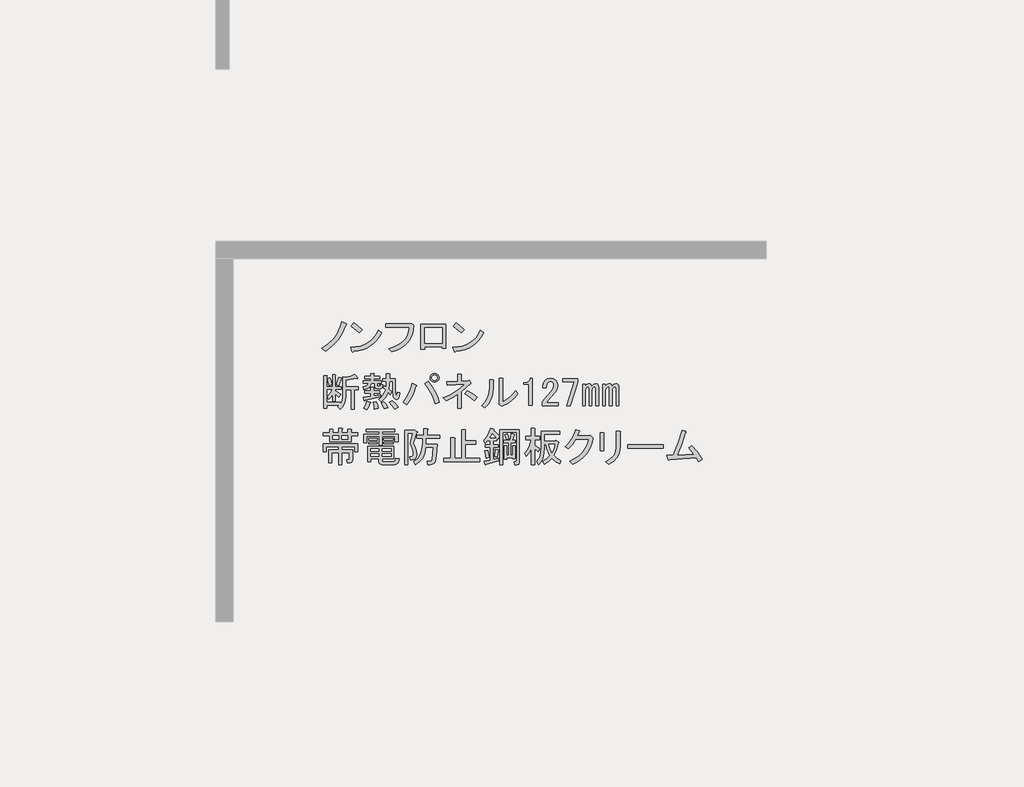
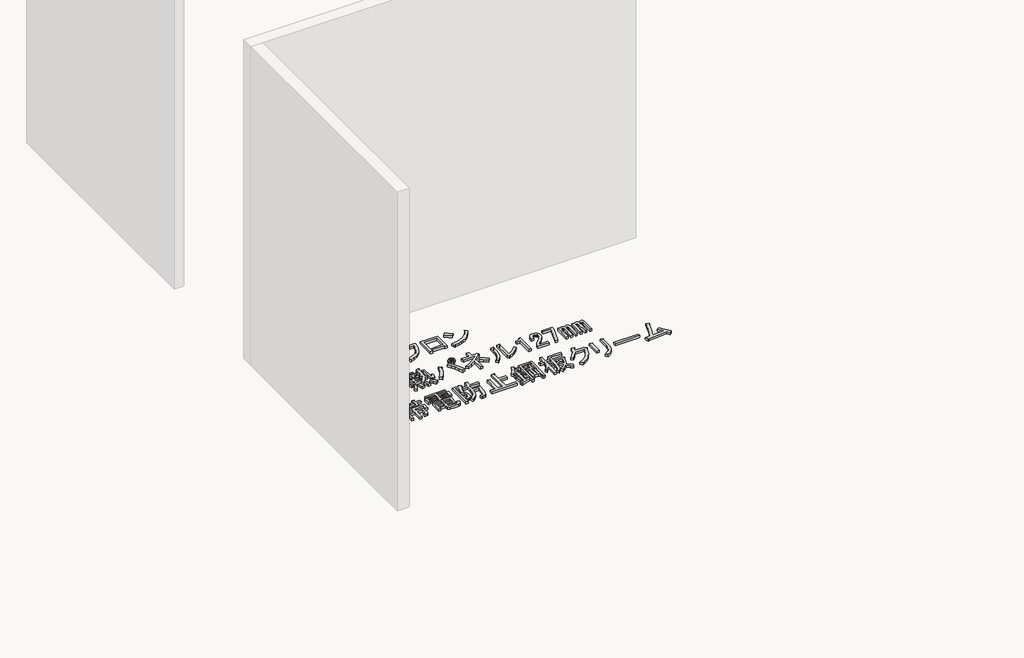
# One storey, part 18 of 117: 1 proxy.
"""IFC4 building model written with IfcOpenShell, lengths in millimetres."""

from ifc_helpers import new_model, si_unit, frame, origin, place, context, project, spatial, polyline, outline, extrude, element, save

model = new_model("IFC4")

# Units and contexts
model_context = context("Model", 3, world=origin())
ifc_project = project(units=[si_unit("LENGTHUNIT", "METRE", prefix="MILLI")], contexts=[model_context])

# Site, building, storey
site = spatial("IfcSite", under=ifc_project)
building = spatial("IfcBuilding", under=site)
storey = spatial("IfcBuildingStorey", under=building, Name="レベル 1", Elevation=500.0)

# Proxy
placement = place(None, origin())
element("IfcBuildingElementProxy", 1, Name="200㎜\u3000MS Pゴシック", ObjectType="200㎜\u3000MS Pゴシック", at=placement, inside=storey, context=model_context, shape_type="SweptSolid", body=[
    extrude(outline(polyline([(-15056.3293015, -8607.0496882), (-15081.9047498, -8666.8215225), (-15110.353844, -8712.7998566), (-15152.0217093, -8758.2034615), (-15201.1610538, -8795.560858), (-15228.7480543, -8773.7211493), (-15181.0455327, -8743.2605029), (-15141.3892195, -8704.7536481), (-15124.0036619, -8680.8305462), (-15108.6296565, -8652.7406577), (-15095.2672031, -8620.4839827), (-15083.9163019, -8584.0605212), (-15052.8809264, -8597.8540214), (-15049.7199159, -8602.4518548), (-15056.3293015, -8607.0496882)])), frame((0.0, 0.0, 500.0), z_axis=(0.0, 0.0, 1.0), x_axis=(1.0, 0.0, 0.0)), (0.0, 0.0, 1.0), 25.0),
    extrude(outline(polyline([(-14956.6022948, -8662.2236891), (-15015.2246708, -8615.0958967), (-14995.6838788, -8590.9572713), (-14968.3842429, -8610.7854279), (-14934.7625862, -8640.3839804), (-14956.6022948, -8662.2236891)])), frame((0.0, 0.0, 500.0), z_axis=(0.0, 0.0, 1.0), x_axis=(1.0, 0.0, 0.0)), (0.0, 0.0, 1.0), 25.0),
    extrude(outline(polyline([(-14794.5286672, -8662.2236891), (-14811.052131, -8691.965924), (-14830.1618761, -8717.9724192), (-14851.8579025, -8740.2431748), (-14876.1402102, -8758.7781907), (-14903.0087992, -8773.577467), (-14932.4636694, -8784.6410036), (-14964.504821, -8791.9688006), (-14999.1322539, -8795.560858), (-15004.8795456, -8803.6070664), (-15010.6268374, -8797.8597747), (-15019.8225042, -8767.9738575), (-14983.9917321, -8765.2977748), (-14951.2142088, -8758.9937141), (-14921.4899342, -8749.0616756), (-14894.8189084, -8735.5016591), (-14871.2011313, -8718.3136646), (-14850.636603, -8697.4976923), (-14833.1253234, -8673.053742), (-14818.6672926, -8644.9818138), (-14794.5286672, -8662.2236891)])), frame((0.0, 0.0, 500.0), z_axis=(0.0, 0.0, 1.0), x_axis=(1.0, 0.0, 0.0)), (0.0, 0.0, 1.0), 25.0),
    extrude(outline(polyline([(-14743.7685864, -8777.1695243), (-14709.985287, -8767.4889298), (-14680.4765359, -8755.1142922), (-14655.242333, -8740.0456116), (-14634.2826783, -8722.282888), (-14617.597572, -8701.8261214), (-14605.1870138, -8678.6753118), (-14597.0510039, -8652.8304591), (-14593.1895423, -8624.2915635), (-14765.6082951, -8624.2915635), (-14765.6082951, -8599.0034798), (-14590.8906256, -8599.0034798), (-14574.7982086, -8595.5551047), (-14562.1541668, -8607.0496882), (-14565.674383, -8643.5449909), (-14573.9361149, -8676.5919185), (-14586.9393625, -8706.1904711), (-14604.6841258, -8732.3406486), (-14627.1704048, -8755.042451), (-14654.3981995, -8774.2958784), (-14686.3675099, -8790.1009308), (-14723.078336, -8802.4576081), (-14743.7685864, -8777.1695243)])), frame((0.0, 0.0, 500.0), z_axis=(0.0, 0.0, 1.0), x_axis=(1.0, 0.0, 0.0)), (0.0, 0.0, 1.0), 25.0),
    extrude(outline(polyline([(-14329.044013, -8776.020066), (-14355.4815551, -8776.020066), (-14355.4815551, -8763.3760241), (-14483.0714321, -8763.3760241), (-14483.0714321, -8781.7673577), (-14509.5089742, -8781.7673577), (-14509.5089742, -8602.4518548), (-14329.044013, -8602.4518548), (-14329.044013, -8776.020066)]), holes=[polyline([(-14483.0714321, -8627.7399386), (-14483.0714321, -8738.0879404), (-14355.4815551, -8738.0879404), (-14355.4815551, -8627.7399386), (-14483.0714321, -8627.7399386)])]), frame((0.0, 0.0, 500.0), z_axis=(0.0, 0.0, 1.0), x_axis=(1.0, 0.0, 0.0)), (0.0, 0.0, 1.0), 25.0),
    extrude(outline(polyline([(-14052.9900951, -8662.2236891), (-14069.5135589, -8691.965924), (-14088.623304, -8717.9724192), (-14110.3193304, -8740.2431748), (-14134.6016381, -8758.7781907), (-14161.4702271, -8773.577467), (-14190.9250974, -8784.6410036), (-14222.9662489, -8791.9688006), (-14257.5936818, -8795.560858), (-14263.3409736, -8803.6070664), (-14269.0882653, -8797.8597747), (-14278.2839321, -8767.9738575), (-14242.4531601, -8765.2977748), (-14209.6756367, -8758.9937141), (-14179.9513622, -8749.0616756), (-14153.2803363, -8735.5016591), (-14129.6625593, -8718.3136646), (-14109.0980309, -8697.4976923), (-14091.5867514, -8673.053742), (-14077.1287205, -8644.9818138), (-14052.9900951, -8662.2236891)])), frame((0.0, 0.0, 500.0), z_axis=(0.0, 0.0, 1.0), x_axis=(1.0, 0.0, 0.0)), (0.0, 0.0, 1.0), 25.0),
    extrude(outline(polyline([(-14215.0637228, -8662.2236891), (-14273.6860987, -8615.0958967), (-14254.1453067, -8590.9572713), (-14226.8456709, -8610.7854279), (-14193.2240141, -8640.3839804), (-14215.0637228, -8662.2236891)])), frame((0.0, 0.0, 500.0), z_axis=(0.0, 0.0, 1.0), x_axis=(1.0, 0.0, 0.0)), (0.0, 0.0, 1.0), 25.0),
    extrude(outline(polyline([(-15122.9978859, -9039.2345221), (-15105.7560106, -8986.3594379), (-15085.0657603, -8992.1067296), (-15083.3415727, -8995.2677401), (-15087.364677, -8997.8540214), (-15104.6065523, -9046.1312722), (-15122.9978859, -9039.2345221)])), frame((0.0, 0.0, 500.0), z_axis=(0.0, 0.0, 1.0), x_axis=(1.0, 0.0, 0.0)), (0.0, 0.0, 1.0), 25.0),
    extrude(outline(polyline([(-14968.9704667, -8990.9572713), (-14970.6946542, -8995.5551047), (-14978.1661335, -8993.256188), (-15055.1798431, -9005.9002299), (-15055.1798431, -9055.326939), (-14963.2231749, -9055.326939), (-14963.2231749, -9077.1666477), (-14994.2585505, -9077.1666477), (-14994.2585505, -9217.4005666), (-15017.2477175, -9217.4005666), (-15017.2477175, -9077.1666477), (-15055.1798431, -9077.1666477), (-15055.1798431, -9126.5933568), (-15057.7661244, -9154.3958807), (-15065.5249683, -9179.1810764), (-15078.4563747, -9200.948944), (-15096.5603438, -9219.6994833), (-15113.8022191, -9200.1586914), (-15103.4570939, -9190.9630245), (-15193.1148454, -9190.9630245), (-15193.1148454, -9212.8027332), (-15216.1040124, -9212.8027332), (-15216.1040124, -8973.715396), (-15194.2643037, -8973.715396), (-15189.3791057, -8976.0143127), (-15193.1148454, -8980.6121461), (-15193.1148454, -9056.4763974), (-15150.5848863, -9056.4763974), (-15150.5848863, -8969.1175626), (-15132.1935527, -8969.1175626), (-15127.3083547, -8971.4164793), (-15131.0440943, -8976.0143127), (-15131.0440943, -9056.4763974), (-15087.364677, -9056.4763974), (-15087.364677, -9074.867731), (-15131.0440943, -9074.867731), (-15131.0440943, -9084.0633978), (-15090.813052, -9110.5009399), (-15104.6065523, -9132.3406486), (-15131.0440943, -9105.9031065), (-15131.0440943, -9158.7781907), (-15150.5848863, -9158.7781907), (-15150.5848863, -9110.5009399), (-15163.8036574, -9130.3290965), (-15178.1718868, -9146.1341488), (-15190.8159287, -9127.7428152), (-15168.97622, -9103.6041898), (-15151.7343447, -9074.867731), (-15193.1148454, -9074.867731), (-15193.1148454, -9169.1233159), (-15095.4108854, -9169.1233159), (-15095.4108854, -9182.9168161), (-15082.479479, -9158.7781907), (-15078.1690102, -9125.4438985), (-15078.1690102, -8980.6121461), (-15056.3293015, -8986.3594379), (-15020.1213634, -8978.8879586), (-14989.660717, -8965.6691875), (-14968.9704667, -8990.9572713)])), frame((0.0, 0.0, 500.0), z_axis=(0.0, 0.0, 1.0), x_axis=(1.0, 0.0, 0.0)), (0.0, 0.0, 1.0), 25.0),
    extrude(outline(polyline([(-15177.0224284, -9047.2807305), (-15189.6664703, -8996.7045631), (-15170.1256783, -8989.8078129), (-15162.3668344, -9013.9464383), (-15157.4816364, -9040.3839804), (-15177.0224284, -9047.2807305)])), frame((0.0, 0.0, 500.0), z_axis=(0.0, 0.0, 1.0), x_axis=(1.0, 0.0, 0.0)), (0.0, 0.0, 1.0), 25.0),
    extrude(outline(polyline([(-14878.1632569, -9167.9738575), (-14874.7148818, -9172.8590555), (-14880.4621736, -9176.020066), (-14890.2325696, -9201.5955143), (-14901.1524239, -9220.8489417), (-14924.141591, -9209.3543582), (-14911.4975491, -9185.790462), (-14901.1524239, -9158.7781907), (-14878.1632569, -9167.9738575)])), frame((0.0, 0.0, 500.0), z_axis=(0.0, 0.0, 1.0), x_axis=(1.0, 0.0, 0.0)), (0.0, 0.0, 1.0), 25.0),
    extrude(outline(polyline([(-14833.3343812, -9163.3760241), (-14823.2766206, -9190.67566), (-14818.3914226, -9212.8027332), (-14847.1278814, -9218.550025), (-14849.7141627, -9196.9976809), (-14857.4730066, -9166.8243992), (-14833.3343812, -9163.3760241)])), frame((0.0, 0.0, 500.0), z_axis=(0.0, 0.0, 1.0), x_axis=(1.0, 0.0, 0.0)), (0.0, 0.0, 1.0), 25.0),
    extrude(outline(polyline([(-14718.388546, -9157.6287323), (-14693.6751914, -9178.8937119), (-14674.7091286, -9203.6070664), (-14701.1466707, -9218.550025), (-14720.4000981, -9188.9514724), (-14739.0787963, -9169.1233159), (-14718.388546, -9157.6287323)])), frame((0.0, 0.0, 500.0), z_axis=(0.0, 0.0, 1.0), x_axis=(1.0, 0.0, 0.0)), (0.0, 0.0, 1.0), 25.0),
    extrude(outline(polyline([(-14777.0109219, -9216.2511083), (-14785.344495, -9191.5377537), (-14798.8506306, -9170.2727742), (-14778.1603803, -9162.2265657), (-14761.2058696, -9183.7789098), (-14749.4239215, -9207.0554415), (-14777.0109219, -9216.2511083)])), frame((0.0, 0.0, 500.0), z_axis=(0.0, 0.0, 1.0), x_axis=(1.0, 0.0, 0.0)), (0.0, 0.0, 1.0), 25.0),
    extrude(outline(polyline([(-14916.0953825, -9153.0308989), (-14918.1069346, -9157.9160969), (-14921.8426743, -9156.479274), (-14927.589966, -9132.3406486), (-14872.4159651, -9124.2944401), (-14872.4159651, -9101.3052731), (-14916.0953825, -9101.3052731), (-14916.0953825, -9082.9139395), (-14872.4159651, -9082.9139395), (-14872.4159651, -9059.9247724), (-14854.0246315, -9059.9247724), (-14849.1394335, -9062.2236891), (-14852.8751732, -9066.8215225), (-14852.8751732, -9082.9139395), (-14808.0462974, -9082.9139395), (-14808.0462974, -9101.3052731), (-14852.8751732, -9101.3052731), (-14852.8751732, -9120.8460651), (-14802.2990057, -9111.6503983), (-14802.2990057, -9127.7428152), (-14916.0953825, -9153.0308989)])), frame((0.0, 0.0, 500.0), z_axis=(0.0, 0.0, 1.0), x_axis=(1.0, 0.0, 0.0)), (0.0, 0.0, 1.0), 25.0),
    extrude(outline(polyline([(-14845.978423, -9031.1883136), (-14871.2665068, -9031.1883136), (-14875.8643402, -9048.6457123), (-14886.2094654, -9061.9363245), (-14902.3018823, -9071.0601502), (-14924.141591, -9076.0171893), (-14928.7394244, -9056.4763974), (-14903.4513406, -9047.8554597), (-14895.9798614, -9040.5276627), (-14891.9567571, -9031.1883136), (-14927.589966, -9031.1883136), (-14927.589966, -9012.79698), (-14873.5654235, -9012.79698), (-14873.5654235, -8995.5551047), (-14917.2448409, -8995.5551047), (-14917.2448409, -8977.1637711), (-14873.5654235, -8977.1637711), (-14873.5654235, -8958.7724374), (-14851.7257148, -8958.7724374), (-14846.8405168, -8961.0713541), (-14850.5762564, -8965.6691875), (-14850.5762564, -8977.1637711), (-14808.0462974, -8977.1637711), (-14808.0462974, -8995.5551047), (-14850.5762564, -8995.5551047), (-14850.5762564, -9012.79698), (-14797.7011723, -9012.79698), (-14797.7011723, -9031.1883136), (-14826.4376311, -9031.1883136), (-14826.4376311, -9043.8323555), (-14825.0008081, -9049.0049181), (-14820.6903393, -9050.7291056), (-14810.3452141, -9050.7291056), (-14806.6094745, -9047.5680951), (-14806.8968391, -9038.0850637), (-14787.3560471, -9040.3839804), (-14790.229693, -9061.9363245), (-14795.5459378, -9067.3244106), (-14803.448464, -9069.1204392), (-14827.5870894, -9069.1204392), (-14841.3805896, -9064.2352412), (-14845.978423, -9049.5796472), (-14845.978423, -9031.1883136)])), frame((0.0, 0.0, 500.0), z_axis=(0.0, 0.0, 1.0), x_axis=(1.0, 0.0, 0.0)), (0.0, 0.0, 1.0), 25.0),
    extrude(outline(polyline([(-14714.9401709, -9013.9464383), (-14736.7798796, -9013.9464383), (-14741.377713, -9071.4193559), (-14721.836921, -9089.8106896), (-14732.1820462, -9111.6503983), (-14748.2744631, -9095.5579813), (-14767.5278905, -9133.2027424), (-14797.7011723, -9165.6749408), (-14814.9430475, -9144.9846905), (-14799.8564067, -9133.0590601), (-14786.7813179, -9117.9724192), (-14775.7177813, -9099.7247679), (-14766.6657967, -9078.316106), (-14783.907672, -9063.3731475), (-14775.8614636, -9046.1312722), (-14762.0679633, -9056.4763974), (-14759.7690466, -9013.9464383), (-14787.3560471, -9013.9464383), (-14787.3560471, -8995.5551047), (-14759.7690466, -8995.5551047), (-14759.7690466, -8961.0713541), (-14737.9293379, -8961.0713541), (-14733.04414, -8963.3702708), (-14736.7798796, -8967.9681043), (-14736.7798796, -8995.5551047), (-14695.3993789, -8995.5551047), (-14695.3993789, -9092.1096063), (-14691.9510039, -9116.2482317), (-14688.7181523, -9118.2597838), (-14685.9163475, -9115.0987733), (-14681.6058787, -9093.2590646), (-14662.0650867, -9100.1558147), (-14666.591079, -9126.9525626), (-14674.421764, -9142.9731384), (-14685.5571418, -9148.2175421), (-14699.9972123, -9142.6857738), (-14706.5347567, -9135.3579768), (-14711.2044313, -9123.719711), (-14714.9401709, -9087.5117729), (-14714.9401709, -9013.9464383)])), frame((0.0, 0.0, 500.0), z_axis=(0.0, 0.0, 1.0), x_axis=(1.0, 0.0, 0.0)), (0.0, 0.0, 1.0), 25.0),
    extrude(outline(polyline([(-14456.3120417, -9016.245355), (-14429.6589762, -9052.9561812), (-14407.1726971, -9090.6727833), (-14388.8532047, -9129.3951616), (-14374.7004987, -9169.1233159), (-14405.7358742, -9179.468441), (-14421.1817208, -9136.3637528), (-14438.7828018, -9097.856898), (-14458.5391173, -9063.9478766), (-14480.4506671, -9034.6366887), (-14456.3120417, -9016.245355)])), frame((0.0, 0.0, 500.0), z_axis=(0.0, 0.0, 1.0), x_axis=(1.0, 0.0, 0.0)), (0.0, 0.0, 1.0), 25.0),
    extrude(outline(polyline([(-14543.6708765, -9042.6828971), (-14539.6477722, -9048.1428243), (-14545.9697932, -9053.0280223), (-14557.8954236, -9088.4457078), (-14572.9820644, -9122.282888), (-14591.2297158, -9154.539563), (-14612.6383776, -9185.2157328), (-14639.0759197, -9167.9738575), (-14615.8712292, -9136.5074351), (-14596.8333252, -9103.0294606), (-14581.9622078, -9067.539934), (-14571.2578769, -9030.0388553), (-14543.6708765, -9042.6828971)])), frame((0.0, 0.0, 500.0), z_axis=(0.0, 0.0, 1.0), x_axis=(1.0, 0.0, 0.0)), (0.0, 0.0, 1.0), 25.0),
    extrude(outline(polyline([(-14410.3337076, -9021.9926468), (-14422.9777495, -9019.6937301), (-14433.3228747, -9012.79698), (-14440.2196248, -9002.4518548), (-14442.5185415, -8989.8078129), (-14440.2196248, -8977.1637711), (-14433.3228747, -8966.8186459), (-14422.9777495, -8959.9218958), (-14410.3337076, -8957.6229791), (-14397.6896657, -8959.9218958), (-14387.3445406, -8966.8186459), (-14380.4477905, -8977.1637711), (-14378.1488738, -8989.8078129), (-14380.4477905, -9002.4518548), (-14387.3445406, -9012.79698), (-14397.6896657, -9019.6937301), (-14410.3337076, -9021.9926468)]), holes=[polyline([(-14410.3337076, -9010.4980633), (-14402.0001346, -9009.0612403), (-14395.390749, -9004.7507715), (-14391.0802802, -8998.141386), (-14389.6434573, -8989.8078129), (-14391.0802802, -8981.4742399), (-14395.390749, -8974.8648544), (-14402.0001346, -8970.5543855), (-14410.3337076, -8969.1175626), (-14418.6672807, -8970.5543855), (-14425.2766662, -8974.8648544), (-14429.587135, -8981.4742399), (-14431.023958, -8989.8078129), (-14429.587135, -8998.141386), (-14425.2766662, -9004.7507715), (-14418.6672807, -9009.0612403), (-14410.3337076, -9010.4980633)])]), frame((0.0, 0.0, 500.0), z_axis=(0.0, 0.0, 1.0), x_axis=(1.0, 0.0, 0.0)), (0.0, 0.0, 1.0), 25.0),
    extrude(outline(polyline([(-14120.6702029, -9155.3298156), (-14157.7402348, -9126.0186277), (-14190.7871624, -9104.7536481), (-14173.5452871, -9082.9139395), (-14134.7510677, -9106.1904711), (-14101.1294109, -9132.3406486), (-14120.6702029, -9155.3298156)])), frame((0.0, 0.0, 500.0), z_axis=(0.0, 0.0, 1.0), x_axis=(1.0, 0.0, 0.0)), (0.0, 0.0, 1.0), 25.0),
    extrude(outline(polyline([(-14166.648537, -9011.6475216), (-14159.7517869, -9009.3486049), (-14147.107745, -9026.5904802), (-14145.9582866, -9032.6251366), (-14151.7055784, -9034.6366887), (-14214.9257878, -9090.9601479), (-14214.9257878, -9211.6532749), (-14241.3633299, -9211.6532749), (-14241.3633299, -9109.3514816), (-14281.5943722, -9133.4901069), (-14326.4232479, -9155.3298156), (-14345.9640399, -9134.6395653), (-14300.4167527, -9115.1706145), (-14259.1799343, -9092.3969709), (-14222.2535848, -9066.3186345), (-14189.637704, -9036.9356054), (-14319.5264978, -9042.6828971), (-14322.9748729, -9017.3948134), (-14241.3633299, -9015.0958967), (-14241.3633299, -8963.3702708), (-14218.3741628, -8963.3702708), (-14212.3395065, -8966.8186459), (-14214.9257878, -8972.5659377), (-14214.9257878, -9013.9464383), (-14166.648537, -9011.6475216)])), frame((0.0, 0.0, 500.0), z_axis=(0.0, 0.0, 1.0), x_axis=(1.0, 0.0, 0.0)), (0.0, 0.0, 1.0), 25.0),
    extrude(outline(polyline([(-14067.703162, -9193.2619413), (-14042.5587606, -9164.0225944), (-14024.5984738, -9131.4785548), (-14013.8223018, -9095.6298225), (-14010.2302444, -9056.4763974), (-14010.2302444, -9004.7507715), (-13986.091619, -9004.7507715), (-13980.3443273, -9008.1991466), (-13983.7927023, -9013.9464383), (-13983.7927023, -9055.326939), (-13987.6002831, -9101.0897496), (-13999.0230255, -9141.82368), (-14018.0609295, -9177.5287301), (-14044.713995, -9208.2048998), (-14067.703162, -9193.2619413)])), frame((0.0, 0.0, 500.0), z_axis=(0.0, 0.0, 1.0), x_axis=(1.0, 0.0, 0.0)), (0.0, 0.0, 1.0), 25.0),
    extrude(outline(polyline([(-13913.6757429, -9162.2265657), (-13888.8905471, -9150.0135708), (-13865.1111275, -9132.9153778), (-13842.3374839, -9110.9319868), (-13820.5696163, -9084.0633978), (-13804.4771994, -9105.9031065), (-13827.753731, -9133.7056304), (-13853.9039086, -9157.3413678), (-13882.9277319, -9176.8103186), (-13914.8252012, -9192.1124829), (-13924.020868, -9196.7103163), (-13942.4122017, -9182.9168161), (-13940.113285, -9177.1695243), (-13940.113285, -8992.1067296), (-13915.9746596, -8992.1067296), (-13910.2273678, -8995.5551047), (-13913.6757429, -9001.3023965), (-13913.6757429, -9162.2265657)])), frame((0.0, 0.0, 500.0), z_axis=(0.0, 0.0, 1.0), x_axis=(1.0, 0.0, 0.0)), (0.0, 0.0, 1.0), 25.0),
    extrude(outline(polyline([(-13725.1645731, -9015.0958967), (-13717.1183647, -9004.1760423), (-13713.6699896, -8992.1067296), (-13699.8764894, -8992.1067296), (-13699.8764894, -9190.9630245), (-13726.3140315, -9190.9630245), (-13726.3140315, -9038.0850637), (-13760.797782, -9038.0850637), (-13760.797782, -9024.2915635), (-13750.4526569, -9024.2915635), (-13736.0844275, -9021.9926468), (-13725.1645731, -9015.0958967)])), frame((0.0, 0.0, 500.0), z_axis=(0.0, 0.0, 1.0), x_axis=(1.0, 0.0, 0.0)), (0.0, 0.0, 1.0), 25.0),
    extrude(outline(polyline([(-13625.1616965, -9062.2236891), (-13620.5638631, -9030.900949), (-13606.7703629, -9008.1991466), (-13590.3905814, -8996.9919276), (-13571.137154, -8993.256188), (-13548.4353515, -8996.9919276), (-13530.9061116, -9008.1991466), (-13519.6988927, -9024.8662927), (-13515.9631531, -9044.9818138), (-13520.2736219, -9070.8446268), (-13533.2050283, -9093.2590646), (-13566.5393205, -9131.1911902), (-13584.9306542, -9151.8814406), (-13598.7241544, -9170.2727742), (-13512.514778, -9170.2727742), (-13512.514778, -9192.1124829), (-13629.7595299, -9192.1124829), (-13629.7595299, -9172.5716909), (-13623.7248736, -9158.7781907), (-13610.2187379, -9140.3868571), (-13563.0909455, -9088.6612312), (-13548.4353515, -9067.3962517), (-13543.5501535, -9044.9818138), (-13545.8490702, -9032.337772), (-13552.7458203, -9021.9926468), (-13560.5046642, -9016.8200842), (-13569.9876956, -9015.0958967), (-13578.6086332, -9016.8200842), (-13586.0801125, -9021.9926468), (-13595.5631439, -9038.3724283), (-13598.7241544, -9062.2236891), (-13625.1616965, -9062.2236891)])), frame((0.0, 0.0, 500.0), z_axis=(0.0, 0.0, 1.0), x_axis=(1.0, 0.0, 0.0)), (0.0, 0.0, 1.0), 25.0),
    extrude(outline(polyline([(-13478.0310274, -8995.5551047), (-13368.832484, -8995.5551047), (-13368.832484, -9020.8431884), (-13424.0064849, -9192.1124829), (-13449.2945686, -9192.1124829), (-13394.1205677, -9017.3948134), (-13478.0310274, -9017.3948134), (-13478.0310274, -8995.5551047)])), frame((0.0, 0.0, 500.0), z_axis=(0.0, 0.0, 1.0), x_axis=(1.0, 0.0, 0.0)), (0.0, 0.0, 1.0), 25.0),
    extrude(outline(polyline([(-13315.9573998, -9193.2619413), (-13335.4981918, -9193.2619413), (-13335.4981918, -9035.786147), (-13315.9573998, -9035.786147), (-13315.9573998, -9053.0280223), (-13303.8880871, -9037.5103346), (-13290.6693161, -9032.337772), (-13281.4736492, -9033.7745949), (-13274.5768991, -9038.0850637), (-13267.680149, -9051.878564), (-13254.7487426, -9037.22297), (-13241.2426069, -9032.337772), (-13232.9090339, -9033.7745949), (-13226.2996483, -9038.0850637), (-13221.1270858, -9046.7060014), (-13219.4028982, -9058.7753141), (-13219.4028982, -9193.2619413), (-13238.9436902, -9193.2619413), (-13238.9436902, -9069.1204392), (-13241.5299715, -9059.6374078), (-13249.2888154, -9056.4763974), (-13259.6339406, -9061.0742308), (-13265.6685969, -9069.6951684), (-13267.680149, -9079.4655644), (-13267.680149, -9193.2619413), (-13287.220941, -9193.2619413), (-13287.220941, -9069.1204392), (-13289.8072223, -9059.6374078), (-13297.5660662, -9056.4763974), (-13307.9111913, -9061.0742308), (-13313.9458477, -9069.6951684), (-13315.9573998, -9079.4655644), (-13315.9573998, -9193.2619413)])), frame((0.0, 0.0, 500.0), z_axis=(0.0, 0.0, 1.0), x_axis=(1.0, 0.0, 0.0)), (0.0, 0.0, 1.0), 25.0),
    extrude(outline(polyline([(-13094.1119379, -9032.337772), (-13085.7783648, -9033.7745949), (-13079.1689793, -9038.0850637), (-13073.9964167, -9046.7060014), (-13072.2722292, -9058.7753141), (-13072.2722292, -9193.2619413), (-13091.8130212, -9193.2619413), (-13091.8130212, -9069.1204392), (-13094.3993024, -9059.6374078), (-13102.1581463, -9056.4763974), (-13112.5032715, -9061.0742308), (-13118.5379278, -9069.6951684), (-13120.54948, -9079.4655644), (-13120.54948, -9193.2619413), (-13140.0902719, -9193.2619413), (-13140.0902719, -9069.1204392), (-13142.6765532, -9059.6374078), (-13150.4353971, -9056.4763974), (-13160.7805223, -9061.0742308), (-13166.8151786, -9069.6951684), (-13168.8267307, -9079.4655644), (-13168.8267307, -9193.2619413), (-13188.3675227, -9193.2619413), (-13188.3675227, -9035.786147), (-13168.8267307, -9035.786147), (-13168.8267307, -9053.0280223), (-13156.757418, -9037.5103346), (-13143.538647, -9032.337772), (-13134.3429802, -9033.7745949), (-13127.4462301, -9038.0850637), (-13120.54948, -9051.878564), (-13107.6180735, -9037.22297), (-13094.1119379, -9032.337772)])), frame((0.0, 0.0, 500.0), z_axis=(0.0, 0.0, 1.0), x_axis=(1.0, 0.0, 0.0)), (0.0, 0.0, 1.0), 25.0),
    extrude(outline(polyline([(-14967.8210084, -9526.5933568), (-14990.8101754, -9526.5933568), (-14990.8101754, -9489.8106896), (-15082.7668436, -9489.8106896), (-15082.7668436, -9513.949315), (-15005.753134, -9513.949315), (-15005.753134, -9588.6641078), (-15010.3509674, -9602.4576081), (-15024.1444676, -9607.0554415), (-15045.9841763, -9607.0554415), (-15049.4325514, -9585.2157328), (-15033.3401344, -9585.2157328), (-15029.8917594, -9584.0662744), (-15028.742301, -9580.6178994), (-15028.742301, -9535.7890237), (-15082.7668436, -9535.7890237), (-15082.7668436, -9623.1478584), (-15105.7560106, -9623.1478584), (-15105.7560106, -9535.7890237), (-15157.4816364, -9535.7890237), (-15157.4816364, -9608.2048998), (-15180.4708035, -9608.2048998), (-15180.4708035, -9513.949315), (-15105.7560106, -9513.949315), (-15105.7560106, -9489.8106896), (-15197.7126788, -9489.8106896), (-15197.7126788, -9526.5933568), (-15220.7018458, -9526.5933568), (-15220.7018458, -9467.9709809), (-14967.8210084, -9467.9709809), (-14967.8210084, -9526.5933568)])), frame((0.0, 0.0, 500.0), z_axis=(0.0, 0.0, 1.0), x_axis=(1.0, 0.0, 0.0)), (0.0, 0.0, 1.0), 25.0),
    extrude(outline(polyline([(-15172.424595, -9453.0280223), (-15172.424595, -9432.337772), (-15172.424595, -9411.6475216), (-15218.4029291, -9411.6475216), (-15218.4029291, -9389.8078129), (-15172.424595, -9389.8078129), (-15172.424595, -9364.5197292), (-15150.5848863, -9364.5197292), (-15145.6996883, -9366.8186459), (-15149.435428, -9371.4164793), (-15149.435428, -9389.8078129), (-15105.7560106, -9389.8078129), (-15105.7560106, -9357.6229791), (-15083.9163019, -9357.6229791), (-15079.0311039, -9359.9218958), (-15082.7668436, -9364.5197292), (-15082.7668436, -9389.8078129), (-15040.2368845, -9389.8078129), (-15040.2368845, -9364.5197292), (-15018.3971758, -9364.5197292), (-15013.5119779, -9366.8186459), (-15017.2477175, -9371.4164793), (-15017.2477175, -9389.8078129), (-14970.1199251, -9389.8078129), (-14970.1199251, -9411.6475216), (-15017.2477175, -9411.6475216), (-15017.2477175, -9453.0280223), (-15172.424595, -9453.0280223)]), holes=[polyline([(-15105.7560106, -9411.6475216), (-15149.435428, -9411.6475216), (-15149.435428, -9434.6366887), (-15105.7560106, -9434.6366887), (-15105.7560106, -9411.6475216)]), polyline([(-15040.2368845, -9411.6475216), (-15082.7668436, -9411.6475216), (-15082.7668436, -9434.6366887), (-15040.2368845, -9434.6366887), (-15040.2368845, -9411.6475216)])]), frame((0.0, 0.0, 500.0), z_axis=(0.0, 0.0, 1.0), x_axis=(1.0, 0.0, 0.0)), (0.0, 0.0, 1.0), 25.0),
    extrude(outline(polyline([(-14698.847754, -9381.7616045), (-14790.8044221, -9381.7616045), (-14790.8044221, -9400.1529381), (-14675.8585869, -9400.1529381), (-14675.8585869, -9455.326939), (-14698.847754, -9455.326939), (-14698.847754, -9413.9464383), (-14790.8044221, -9413.9464383), (-14790.8044221, -9479.4655644), (-14813.7935892, -9479.4655644), (-14813.7935892, -9413.9464383), (-14902.3018823, -9413.9464383), (-14902.3018823, -9459.9247724), (-14925.2910493, -9459.9247724), (-14925.2910493, -9400.1529381), (-14813.7935892, -9400.1529381), (-14813.7935892, -9381.7616045), (-14905.7502573, -9381.7616045), (-14905.7502573, -9363.3702708), (-14698.847754, -9363.3702708), (-14698.847754, -9381.7616045)])), frame((0.0, 0.0, 500.0), z_axis=(0.0, 0.0, 1.0), x_axis=(1.0, 0.0, 0.0)), (0.0, 0.0, 1.0), 25.0),
    extrude(outline(polyline([(-14666.6629201, -9578.3189827), (-14669.4647249, -9596.9258397), (-14676.7206807, -9610.2164519), (-14688.4307877, -9618.1908193), (-14704.5950457, -9620.8489417), (-14794.2527972, -9620.8489417), (-14809.770485, -9615.9637437), (-14813.6499069, -9609.8572462), (-14814.9430475, -9601.3081497), (-14814.9430475, -9579.468441), (-14874.7148818, -9579.468441), (-14874.7148818, -9599.009233), (-14894.2556738, -9599.009233), (-14894.2556738, -9486.3623145), (-14706.8939624, -9486.3623145), (-14706.8939624, -9579.468441), (-14791.9538805, -9579.468441), (-14791.9538805, -9589.8135662), (-14789.9423284, -9596.7103163), (-14783.907672, -9599.009233), (-14708.0434208, -9599.009233), (-14701.4340353, -9597.4287278), (-14696.5488373, -9592.6872121), (-14691.9510039, -9573.7211493), (-14666.6629201, -9578.3189827)]), holes=[polyline([(-14874.7148818, -9561.0771074), (-14814.9430475, -9561.0771074), (-14814.9430475, -9541.5363154), (-14874.7148818, -9541.5363154), (-14874.7148818, -9561.0771074)]), polyline([(-14874.7148818, -9523.1449818), (-14814.9430475, -9523.1449818), (-14814.9430475, -9504.7536481), (-14874.7148818, -9504.7536481), (-14874.7148818, -9523.1449818)]), polyline([(-14791.9538805, -9561.0771074), (-14726.4347544, -9561.0771074), (-14726.4347544, -9541.5363154), (-14791.9538805, -9541.5363154), (-14791.9538805, -9561.0771074)]), polyline([(-14791.9538805, -9523.1449818), (-14726.4347544, -9523.1449818), (-14726.4347544, -9504.7536481), (-14791.9538805, -9504.7536481), (-14791.9538805, -9523.1449818)])]), frame((0.0, 0.0, 500.0), z_axis=(0.0, 0.0, 1.0), x_axis=(1.0, 0.0, 0.0)), (0.0, 0.0, 1.0), 25.0),
    extrude(outline(polyline([(-14888.5083821, -9442.6828971), (-14888.5083821, -9428.8893969), (-14825.2881727, -9428.8893969), (-14825.2881727, -9442.6828971), (-14888.5083821, -9442.6828971)])), frame((0.0, 0.0, 500.0), z_axis=(0.0, 0.0, 1.0), x_axis=(1.0, 0.0, 0.0)), (0.0, 0.0, 1.0), 25.0),
    extrude(outline(polyline([(-14825.2881727, -9470.2698976), (-14888.5083821, -9470.2698976), (-14888.5083821, -9456.4763974), (-14825.2881727, -9456.4763974), (-14825.2881727, -9470.2698976)])), frame((0.0, 0.0, 500.0), z_axis=(0.0, 0.0, 1.0), x_axis=(1.0, 0.0, 0.0)), (0.0, 0.0, 1.0), 25.0),
    extrude(outline(polyline([(-14778.1603803, -9470.2698976), (-14778.1603803, -9456.4763974), (-14711.4917959, -9456.4763974), (-14711.4917959, -9470.2698976), (-14778.1603803, -9470.2698976)])), frame((0.0, 0.0, 500.0), z_axis=(0.0, 0.0, 1.0), x_axis=(1.0, 0.0, 0.0)), (0.0, 0.0, 1.0), 25.0),
    extrude(outline(polyline([(-14778.1603803, -9442.6828971), (-14778.1603803, -9428.8893969), (-14711.4917959, -9428.8893969), (-14711.4917959, -9442.6828971), (-14778.1603803, -9442.6828971)])), frame((0.0, 0.0, 500.0), z_axis=(0.0, 0.0, 1.0), x_axis=(1.0, 0.0, 0.0)), (0.0, 0.0, 1.0), 25.0),
    extrude(outline(polyline([(-14542.5214181, -9520.8460651), (-14540.5817071, -9548.5049067), (-14545.1076994, -9568.2612221), (-14556.0993949, -9580.1150114), (-14573.5567936, -9584.0662744), (-14587.3502938, -9584.0662744), (-14591.9481272, -9562.2265657), (-14580.4535437, -9562.2265657), (-14572.1199707, -9560.0713313), (-14566.6600435, -9553.6056281), (-14564.0737622, -9542.8294561), (-14564.3611268, -9527.7428152), (-14571.2578769, -9500.7305439), (-14587.3502938, -9465.6720642), (-14568.9589602, -9394.4056463), (-14603.4427108, -9394.4056463), (-14603.4427108, -9623.1478584), (-14626.4318778, -9623.1478584), (-14626.4318778, -9372.5659377), (-14562.0622101, -9372.5659377), (-14559.7632934, -9367.9681043), (-14535.624668, -9380.6121461), (-14534.187845, -9384.3478858), (-14539.073043, -9386.3594379), (-14565.5105851, -9464.5226058), (-14549.9928974, -9496.9948043), (-14542.5214181, -9520.8460651)])), frame((0.0, 0.0, 500.0), z_axis=(0.0, 0.0, 1.0), x_axis=(1.0, 0.0, 0.0)), (0.0, 0.0, 1.0), 25.0),
    extrude(outline(polyline([(-14475.8528337, -9495.5579813), (-14483.0369484, -9538.7345107), (-14497.6925424, -9574.0085139), (-14519.8196156, -9601.3799909), (-14549.4181682, -9620.8489417), (-14560.9127517, -9597.8597747), (-14533.2539101, -9578.0316181), (-14513.4975947, -9549.5825239), (-14501.6438055, -9512.512492), (-14497.6925424, -9466.8215225), (-14497.6925424, -9428.8893969), (-14541.3719597, -9428.8893969), (-14541.3719597, -9407.0496882), (-14488.4968756, -9407.0496882), (-14488.4968756, -9358.7724374), (-14463.2087918, -9358.7724374), (-14457.1741355, -9362.2208125), (-14462.0593335, -9367.9681043), (-14462.0593335, -9407.0496882), (-14373.5510404, -9407.0496882), (-14373.5510404, -9428.8893969), (-14474.7033753, -9428.8893969), (-14474.7033753, -9473.7182726), (-14391.942374, -9473.7182726), (-14397.6896657, -9555.9045448), (-14405.7358742, -9600.1586914), (-14410.6210722, -9608.7077879), (-14418.3799161, -9614.8142854), (-14442.5185415, -9619.6994833), (-14460.9098751, -9619.6994833), (-14464.3582502, -9597.8597747), (-14447.1163749, -9597.8597747), (-14434.7596976, -9594.6987642), (-14427.5755829, -9585.2157328), (-14418.3799161, -9495.5579813), (-14475.8528337, -9495.5579813)])), frame((0.0, 0.0, 500.0), z_axis=(0.0, 0.0, 1.0), x_axis=(1.0, 0.0, 0.0)), (0.0, 0.0, 1.0), 25.0),
    extrude(outline(polyline([(-14188.4882457, -9366.8186459), (-14182.4535893, -9370.267021), (-14187.3387873, -9376.0143127), (-14187.3387873, -9446.1312722), (-14111.4745361, -9446.1312722), (-14111.4745361, -9471.4193559), (-14187.3387873, -9471.4193559), (-14187.3387873, -9574.8706076), (-14081.5886189, -9574.8706076), (-14081.5886189, -9600.1586914), (-14344.8145815, -9600.1586914), (-14344.8145815, -9574.8706076), (-14291.9394974, -9574.8706076), (-14291.9394974, -9424.2915635), (-14266.6514136, -9424.2915635), (-14260.6167573, -9427.7399386), (-14265.5019553, -9433.4872303), (-14265.5019553, -9574.8706076), (-14213.7763294, -9574.8706076), (-14213.7763294, -9366.8186459), (-14188.4882457, -9366.8186459)])), frame((0.0, 0.0, 500.0), z_axis=(0.0, 0.0, 1.0), x_axis=(1.0, 0.0, 0.0)), (0.0, 0.0, 1.0), 25.0),
    extrude(outline(polyline([(-13950.5503668, -9434.6366887), (-13991.9308675, -9390.9572713), (-14013.7705762, -9430.0388553), (-13958.5965753, -9430.0388553), (-13958.5965753, -9448.4301889), (-13985.0341174, -9448.4301889), (-13985.0341174, -9477.1666477), (-13947.1019917, -9477.1666477), (-13947.1019917, -9495.5579813), (-13985.0341174, -9495.5579813), (-13985.0341174, -9582.9168161), (-13945.9525334, -9572.5716909), (-13943.6536167, -9592.1124829), (-14035.6102848, -9617.4005666), (-14037.9092016, -9623.1478584), (-14042.507035, -9619.6994833), (-14049.4037851, -9596.7103163), (-14004.5749093, -9587.5146495), (-14004.5749093, -9495.5579813), (-14042.507035, -9495.5579813), (-14042.507035, -9477.1666477), (-14004.5749093, -9477.1666477), (-14004.5749093, -9448.4301889), (-14026.414618, -9448.4301889), (-14041.3575766, -9466.8215225), (-14054.0016185, -9446.1312722), (-14025.8398889, -9408.4865112), (-14001.1265343, -9357.6229791), (-13979.2868256, -9363.3702708), (-13975.8384505, -9367.1060105), (-13981.5857423, -9369.1175626), (-13982.7352007, -9372.5659377), (-13937.9063249, -9410.4980633), (-13950.5503668, -9434.6366887)])), frame((0.0, 0.0, 500.0), z_axis=(0.0, 0.0, 1.0), x_axis=(1.0, 0.0, 0.0)), (0.0, 0.0, 1.0), 25.0),
    extrude(outline(polyline([(-13947.1019917, -9513.949315), (-13944.5157105, -9517.1103254), (-13948.2514501, -9519.6966067), (-13956.2976586, -9566.8243992), (-13974.6889922, -9564.5254825), (-13968.9417004, -9510.5009399), (-13947.1019917, -9513.949315)])), frame((0.0, 0.0, 500.0), z_axis=(0.0, 0.0, 1.0), x_axis=(1.0, 0.0, 0.0)), (0.0, 0.0, 1.0), 25.0),
    extrude(outline(polyline([(-14024.1157013, -9515.0987733), (-14012.6211178, -9566.8243992), (-14033.3113681, -9572.5716909), (-14044.8059517, -9520.8460651), (-14024.1157013, -9515.0987733)])), frame((0.0, 0.0, 500.0), z_axis=(0.0, 0.0, 1.0), x_axis=(1.0, 0.0, 0.0)), (0.0, 0.0, 1.0), 25.0),
    extrude(outline(polyline([(-13882.732324, -9397.8540214), (-13875.5482093, -9413.0843446), (-13870.0882822, -9433.4872303), (-13887.3301574, -9439.2345221), (-13898.824741, -9402.4518548), (-13882.732324, -9397.8540214)])), frame((0.0, 0.0, 500.0), z_axis=(0.0, 0.0, 1.0), x_axis=(1.0, 0.0, 0.0)), (0.0, 0.0, 1.0), 25.0),
    extrude(outline(polyline([(-13829.8572398, -9399.0034798), (-13827.2709585, -9402.4518548), (-13833.3056149, -9405.9002299), (-13845.9496568, -9443.8323555), (-13825.2594064, -9443.8323555), (-13825.2594064, -9462.2236891), (-13856.2947819, -9462.2236891), (-13856.2947819, -9550.7319822), (-13841.3518234, -9550.7319822), (-13841.3518234, -9482.9139395), (-13825.2594064, -9482.9139395), (-13825.2594064, -9577.1695243), (-13841.3518234, -9577.1695243), (-13841.3518234, -9569.1233159), (-13887.3301574, -9569.1233159), (-13887.3301574, -9581.7673577), (-13903.4225744, -9581.7673577), (-13903.4225744, -9485.2128562), (-13887.3301574, -9485.2128562), (-13887.3301574, -9550.7319822), (-13872.3871989, -9550.7319822), (-13872.3871989, -9462.2236891), (-13908.0204078, -9462.2236891), (-13908.0204078, -9443.8323555), (-13862.0420737, -9443.8323555), (-13851.6969485, -9394.4056463), (-13829.8572398, -9399.0034798)])), frame((0.0, 0.0, 500.0), z_axis=(0.0, 0.0, 1.0), x_axis=(1.0, 0.0, 0.0)), (0.0, 0.0, 1.0), 25.0),
    extrude(outline(polyline([(-13935.6074082, -9365.6691875), (-13795.3734893, -9365.6691875), (-13795.3734893, -9605.9059831), (-13799.1092289, -9617.1132021), (-13810.3164478, -9620.8489417), (-13826.4088648, -9620.8489417), (-13831.0066982, -9599.009233), (-13819.5121147, -9599.009233), (-13816.0637396, -9597.8597747), (-13814.9142813, -9594.4113996), (-13814.9142813, -9384.0605212), (-13916.0666162, -9384.0605212), (-13916.0666162, -9623.1478584), (-13935.6074082, -9623.1478584), (-13935.6074082, -9365.6691875)])), frame((0.0, 0.0, 500.0), z_axis=(0.0, 0.0, 1.0), x_axis=(1.0, 0.0, 0.0)), (0.0, 0.0, 1.0), 25.0),
    extrude(outline(polyline([(-13624.1041948, -9594.4113996), (-13595.367736, -9577.1695243), (-13573.5280273, -9555.3298156), (-13591.3446318, -9513.3745858), (-13601.1150278, -9472.5688143), (-13613.7590697, -9472.5688143), (-13613.7590697, -9496.7074397), (-13616.2016686, -9538.4471461), (-13623.5294656, -9572.8590555), (-13635.7424606, -9599.9431679), (-13652.8406536, -9619.6994833), (-13666.6341538, -9596.7103163), (-13653.5590651, -9579.3247587), (-13644.219716, -9557.0540032), (-13638.6161065, -9529.8980496), (-13636.7482367, -9497.856898), (-13636.7482367, -9377.1637711), (-13499.9626928, -9377.1637711), (-13499.9626928, -9399.0034798), (-13613.7590697, -9399.0034798), (-13613.7590697, -9450.7291056), (-13534.4464434, -9450.7291056), (-13528.6991516, -9444.9818138), (-13509.1583596, -9458.7753141), (-13507.7215367, -9462.5110537), (-13512.6067347, -9466.8215225), (-13524.963412, -9513.3745858), (-13543.6421102, -9554.1803573), (-13524.6760474, -9572.5716909), (-13493.0659427, -9590.9630245), (-13502.2616095, -9615.1016499), (-13530.1359745, -9599.009233), (-13558.5850688, -9573.7211493), (-13583.0110587, -9598.1471392), (-13614.908528, -9618.550025), (-13624.1041948, -9594.4113996)]), holes=[polyline([(-13579.2753191, -9472.5688143), (-13571.2291106, -9505.6157419), (-13558.5850688, -9533.4901069), (-13545.9410269, -9507.3399294), (-13537.8948184, -9472.5688143), (-13579.2753191, -9472.5688143)])]), frame((0.0, 0.0, 500.0), z_axis=(0.0, 0.0, 1.0), x_axis=(1.0, 0.0, 0.0)), (0.0, 0.0, 1.0), 25.0),
    extrude(outline(polyline([(-13706.8651962, -9623.1478584), (-13706.8651962, -9503.6041898), (-13724.6818006, -9537.8005758), (-13743.6478634, -9559.927649), (-13755.142447, -9539.2373987), (-13737.9005717, -9516.5355963), (-13724.1070714, -9492.1096063), (-13713.7619463, -9465.9594288), (-13706.8651962, -9438.0850637), (-13748.2456968, -9438.0850637), (-13748.2456968, -9416.245355), (-13706.8651962, -9416.245355), (-13706.8651962, -9356.4735207), (-13685.0254875, -9356.4735207), (-13680.1402895, -9358.7724374), (-13683.8760291, -9363.3702708), (-13683.8760291, -9416.245355), (-13645.9439035, -9416.245355), (-13645.9439035, -9438.0850637), (-13683.8760291, -9438.0850637), (-13683.8760291, -9478.316106), (-13645.9439035, -9504.7536481), (-13656.2890287, -9527.7428152), (-13683.8760291, -9504.7536481), (-13683.8760291, -9623.1478584), (-13706.8651962, -9623.1478584)])), frame((0.0, 0.0, 500.0), z_axis=(0.0, 0.0, 1.0), x_axis=(1.0, 0.0, 0.0)), (0.0, 0.0, 1.0), 25.0),
    extrude(outline(polyline([(-13263.1742723, -9438.0850637), (-13270.1967444, -9468.294266), (-13280.3443064, -9496.2763928), (-13293.6169583, -9522.031444), (-13310.0147001, -9545.5594196), (-13329.5375318, -9566.8603197), (-13352.1854534, -9585.9341443), (-13377.9584649, -9602.7808932), (-13406.8565663, -9617.4005666), (-13427.5468166, -9595.560858), (-13376.8269668, -9568.4049044), (-13355.669749, -9551.7018377), (-13337.314336, -9532.9153778), (-13321.7607277, -9512.0455246), (-13309.0089241, -9489.0922781), (-13299.0589252, -9464.0556384), (-13291.9107311, -9436.9356054), (-13383.8673992, -9436.9356054), (-13410.8796705, -9476.3045539), (-13439.0414001, -9507.0525648), (-13462.0305672, -9492.1096063), (-13434.8027725, -9463.9478766), (-13412.8912226, -9433.4872303), (-13396.2959177, -9400.7276673), (-13385.0168576, -9365.6691875), (-13358.5793155, -9374.8648544), (-13355.7056696, -9378.3132294), (-13360.8782322, -9381.7616045), (-13373.5222741, -9411.6475216), (-13290.7612727, -9411.6475216), (-13280.4161476, -9405.9002299), (-13259.7258972, -9426.5904802), (-13256.5648868, -9433.4872303), (-13263.1742723, -9438.0850637)])), frame((0.0, 0.0, 500.0), z_axis=(0.0, 0.0, 1.0), x_axis=(1.0, 0.0, 0.0)), (0.0, 0.0, 1.0), 25.0),
    extrude(outline(polyline([(-13063.3984107, -9494.408523), (-13068.427291, -9534.495883), (-13083.5139319, -9568.5485867), (-13108.6583333, -9596.566634), (-13143.8604953, -9618.550025), (-13166.8496624, -9599.009233), (-13133.5872113, -9579.468441), (-13109.6641094, -9555.3298156), (-13095.0803565, -9526.5933568), (-13089.8359528, -9493.2590646), (-13089.8359528, -9378.3132294), (-13065.6973274, -9378.3132294), (-13059.3753065, -9381.7616045), (-13063.3984107, -9387.5088962), (-13063.3984107, -9494.408523)])), frame((0.0, 0.0, 500.0), z_axis=(0.0, 0.0, 1.0), x_axis=(1.0, 0.0, 0.0)), (0.0, 0.0, 1.0), 25.0),
    extrude(outline(polyline([(-13181.792621, -9519.6966067), (-13208.230163, -9519.6966067), (-13208.230163, -9389.8078129), (-13182.9420793, -9389.8078129), (-13176.907423, -9392.6814588), (-13181.792621, -9399.0034798), (-13181.792621, -9519.6966067)])), frame((0.0, 0.0, 500.0), z_axis=(0.0, 0.0, 1.0), x_axis=(1.0, 0.0, 0.0)), (0.0, 0.0, 1.0), 25.0),
    extrude(outline(polyline([(-13007.0749514, -9501.3052731), (-13007.0749514, -9476.0171893), (-12750.7457389, -9476.0171893), (-12750.7457389, -9501.3052731), (-13007.0749514, -9501.3052731)])), frame((0.0, 0.0, 500.0), z_axis=(0.0, 0.0, 1.0), x_axis=(1.0, 0.0, 0.0)), (0.0, 0.0, 1.0), 25.0),
    extrude(outline(polyline([(-12723.4346085, -9554.1803573), (-12675.1573577, -9553.0308989), (-12638.662055, -9462.5110537), (-12611.9371483, -9370.267021), (-12585.4996062, -9379.4626878), (-12580.9017728, -9385.4973441), (-12587.798523, -9389.8078129), (-12613.3739713, -9470.8446268), (-12646.4208989, -9550.7319822), (-12526.8772303, -9544.9846905), (-12564.8093559, -9497.856898), (-12541.8201889, -9481.7644811), (-12503.6006987, -9528.0301798), (-12467.105396, -9581.7673577), (-12492.3934797, -9599.009233), (-12510.7848134, -9569.1233159), (-12703.8938165, -9584.0662744), (-12709.9284729, -9589.8135662), (-12714.2389417, -9584.0662744), (-12723.4346085, -9554.1803573)])), frame((0.0, 0.0, 500.0), z_axis=(0.0, 0.0, 1.0), x_axis=(1.0, 0.0, 0.0)), (0.0, 0.0, 1.0), 25.0),
])

save(model, "model.ifc")
